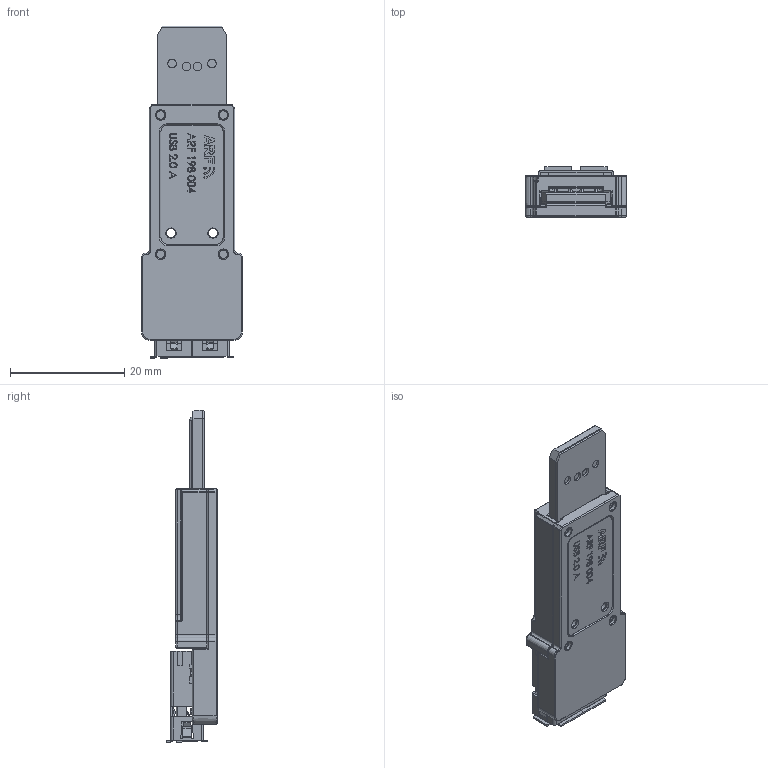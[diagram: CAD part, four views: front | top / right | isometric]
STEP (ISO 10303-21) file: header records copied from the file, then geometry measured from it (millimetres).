
FILE_DESCRIPTION (( 'STEP AP214' ), '1' );
FILE_NAME ('ARF 198 004 USB 2.0 A.STEP', '2024-05-03T13:40:52', ( '' ), ( '' ), 'SwSTEP 2.0', 'SolidWorks 2015', '' );
FILE_SCHEMA (( 'AUTOMOTIVE_DESIGN' ));
Length unit declared in the file: millimetre
Products named in the file (18): 692_121_230_100-housing2; 8042_018-V2-capot_bottom; Plaquette gravure USB 2.0; 8042_174-moule (Ultrason); 8042_017-v2-capot_top (Ultrason); 8093_801 (DXF); 692_121_230_100-housing1; 692_121_230_100; 8093_801; ARF 198 004 USB 2.0 A; 8093_081; 692_121_230_100-pin; 8042_139; 8042_172_moule; 692_121_230_100-shielding; 692_121_230_100-pin2; 5593_131; 5593_143
Assembly tree (30 placements, depth 4):
  8093_801 (DXF)
  ARF 198 004 USB 2.0 A
    8042_018-V2-capot_bottom
      8042_172_moule
    8093_081
      8093_801
      692_121_230_100
        692_121_230_100-pin2  x4
        692_121_230_100-pin  x5
        692_121_230_100-housing1
        692_121_230_100-housing2
        692_121_230_100-shielding
      8042_139
      5593_131  x4
      5593_143  x4
    8042_017-v2-capot_top (Ultrason)
      8042_174-moule (Ultrason)
    Plaquette gravure USB 2.0  x2
Bounding box: 17.7 x 8.85 x 58.18 mm (x, y, z)
Volume: 4064.5 mm3; surface area: 9426.2 mm2
Topology: 26 solids, 26 shells, 3915 faces, 10013 edges, 6122 vertices
Faces by surface type: plane 1547, cylinder 1232, bspline 500, torus 348, sphere 200, cone 88
Entity records: 111299 total; most frequent: CARTESIAN_POINT 35349, ORIENTED_EDGE 15850, DIRECTION 15531, EDGE_CURVE 7925, AXIS2_PLACEMENT_3D 5608, VERTEX_POINT 4832, LINE 4315, VECTOR 4315
